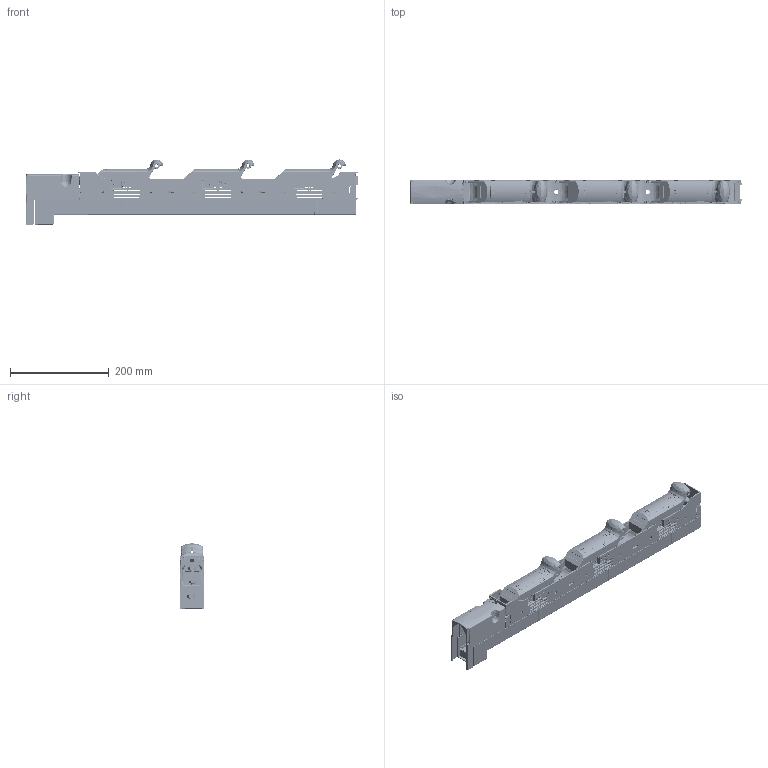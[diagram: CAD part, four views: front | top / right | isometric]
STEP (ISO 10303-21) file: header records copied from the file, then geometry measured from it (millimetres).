
FILE_DESCRIPTION (( 'STEP AP214' ), '1' );
FILE_NAME ('FSD00-31D-FC__1.step', '2014-11-18T12:25:10', ( '' ), ( '' ), 'SwSTEP 2.0', 'SolidWorks 2011', '' );
FILE_SCHEMA (( 'AUTOMOTIVE_DESIGN' ));
Length unit declared in the file: millimetre
Products named in the file (1): FSD00-31D-FC__1
Bounding box: 672.65 x 50.13 x 132.03 mm (x, y, z)
Volume: 582359.3 mm3; surface area: 679264.4 mm2
Topology: 19 solids, 19 shells, 10203 faces, 27889 edges, 17584 vertices
Faces by surface type: plane 5240, cylinder 2536, bspline 1320, cone 1107
Entity records: 486114 total; most frequent: CARTESIAN_POINT 132346, ORIENTED_EDGE 55668, DIRECTION 43464, EDGE_CURVE 27834, VERTEX_POINT 17584, VECTOR 17498, LINE 17498, AXIS2_PLACEMENT_3D 12983
